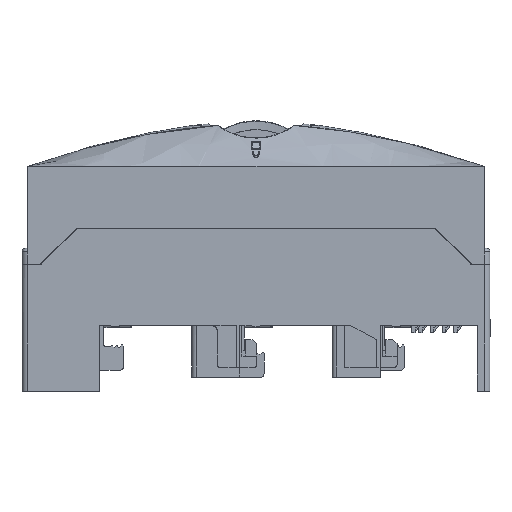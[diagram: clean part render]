
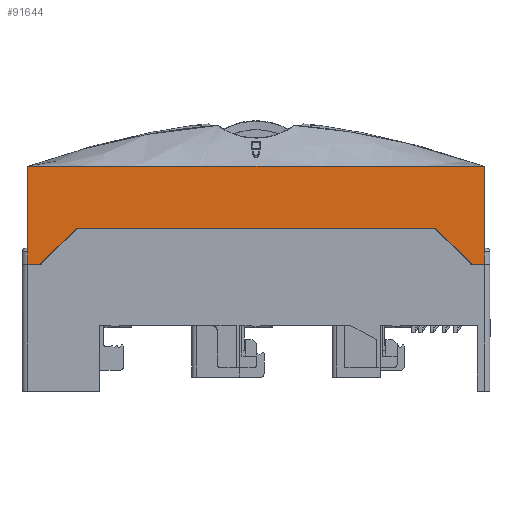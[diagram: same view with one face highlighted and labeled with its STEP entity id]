
A CAD part, front view. The second image highlights one B-rep face of the part: STEP entity #91644.
In plain terms, the highlighted planar face has unit normal (0, -1, 0).
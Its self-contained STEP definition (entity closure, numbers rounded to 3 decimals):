
#693 = CARTESIAN_POINT ( 'NONE',  ( 76.095, -27., 41.5 ) ) ;
#4060 = CARTESIAN_POINT ( 'NONE',  ( -92.715, -27., 27.2 ) ) ;
#5579 = DIRECTION ( 'NONE',  ( 0., 0., 1. ) ) ;
#5684 = VECTOR ( 'NONE', #11743, 1000. ) ;
#7222 = VECTOR ( 'NONE', #44514, 1000. ) ;
#7511 = ORIENTED_EDGE ( 'NONE', *, *, #54850, .T. ) ;
#11357 = ORIENTED_EDGE ( 'NONE', *, *, #110919, .T. ) ;
#11470 = VERTEX_POINT ( 'NONE', #56125 ) ;
#11743 = DIRECTION ( 'NONE',  ( 0., 0., -1. ) ) ;
#12035 = VECTOR ( 'NONE', #52580, 1000. ) ;
#12190 = VERTEX_POINT ( 'NONE', #67731 ) ;
#12319 = CARTESIAN_POINT ( 'NONE',  ( 97.5, -27., 68. ) ) ;
#12774 = CARTESIAN_POINT ( 'NONE',  ( 76.095, -27., 40.5 ) ) ;
#17081 = VERTEX_POINT ( 'NONE', #99433 ) ;
#18477 = LINE ( 'NONE', #66937, #52166 ) ;
#21380 = CARTESIAN_POINT ( 'NONE',  ( 97.5, -27., 33. ) ) ;
#21802 = DIRECTION ( 'NONE',  ( 0., 1., 0. ) ) ;
#22606 = DIRECTION ( 'NONE',  ( 0., 1., 0. ) ) ;
#23917 = AXIS2_PLACEMENT_3D ( 'NONE', #4060, #41801, #95265 ) ;
#24063 = LINE ( 'NONE', #48807, #48006 ) ;
#24779 = EDGE_CURVE ( 'NONE', #60369, #64512, #74467, .T. ) ;
#25343 = AXIS2_PLACEMENT_3D ( 'NONE', #88892, #26366, #51171 ) ;
#25595 = EDGE_CURVE ( 'NONE', #17081, #70193, #110822, .T. ) ;
#26205 = CARTESIAN_POINT ( 'NONE',  ( -97.5, -27., 33. ) ) ;
#26366 = DIRECTION ( 'NONE',  ( 0., -1., 0. ) ) ;
#26980 = PLANE ( 'NONE',  #100226 ) ;
#27064 = ORIENTED_EDGE ( 'NONE', *, *, #81143, .T. ) ;
#29299 = DIRECTION ( 'NONE',  ( 0., 0., 1. ) ) ;
#31174 = LINE ( 'NONE', #21380, #67723 ) ;
#31473 = VECTOR ( 'NONE', #110914, 1000. ) ;
#35067 = VECTOR ( 'NONE', #99252, 1000. ) ;
#37272 = FACE_OUTER_BOUND ( 'NONE', #49520, .T. ) ;
#38188 = CARTESIAN_POINT ( 'NONE',  ( -97.5, -27., 26.2 ) ) ;
#40316 = CARTESIAN_POINT ( 'NONE',  ( -76.095, -27., 40.5 ) ) ;
#40350 = VECTOR ( 'NONE', #112062, 1000. ) ;
#41801 = DIRECTION ( 'NONE',  ( 0., -1., 0. ) ) ;
#43855 = EDGE_CURVE ( 'NONE', #108581, #49772, #60365, .T. ) ;
#44514 = DIRECTION ( 'NONE',  ( 1., 0., 0. ) ) ;
#44689 = DIRECTION ( 'NONE',  ( 0., -1., 0. ) ) ;
#46943 = EDGE_CURVE ( 'NONE', #77581, #108581, #69474, .T. ) ;
#48006 = VECTOR ( 'NONE', #57854, 1000. ) ;
#48054 = CARTESIAN_POINT ( 'NONE',  ( 76.791, -27., 41.219 ) ) ;
#48807 = CARTESIAN_POINT ( 'NONE',  ( -92.019, -27., 26.481 ) ) ;
#48920 = EDGE_CURVE ( 'NONE', #64512, #91003, #106806, .T. ) ;
#49255 = AXIS2_PLACEMENT_3D ( 'NONE', #12774, #21802, #56869 ) ;
#49520 = EDGE_LOOP ( 'NONE', ( #105619, #116394, #78817, #101281, #7511, #91005, #89202, #107187, #114385, #86968, #98382, #27064, #11357, #85288 ) ) ;
#49772 = VERTEX_POINT ( 'NONE', #58120 ) ;
#50026 = CARTESIAN_POINT ( 'NONE',  ( 92.715, -27., 26.2 ) ) ;
#51171 = DIRECTION ( 'NONE',  ( 0., 0., 1. ) ) ;
#52166 = VECTOR ( 'NONE', #5579, 1000. ) ;
#52571 = CARTESIAN_POINT ( 'NONE',  ( -97.5, -27., 33. ) ) ;
#52580 = DIRECTION ( 'NONE',  ( -1., 0., 0. ) ) ;
#52734 = CARTESIAN_POINT ( 'NONE',  ( -97.5, -27., 31.5 ) ) ;
#53180 = EDGE_CURVE ( 'NONE', #49772, #17081, #24063, .T. ) ;
#54850 = EDGE_CURVE ( 'NONE', #70193, #103940, #102916, .T. ) ;
#55218 = CARTESIAN_POINT ( 'NONE',  ( -97.5, -27., 26.2 ) ) ;
#56125 = CARTESIAN_POINT ( 'NONE',  ( -97.5, -27., 68. ) ) ;
#56565 = VECTOR ( 'NONE', #116537, 1000. ) ;
#56869 = DIRECTION ( 'NONE',  ( 0., 0., 1. ) ) ;
#57854 = DIRECTION ( 'NONE',  ( 0.719, 0., 0.695 ) ) ;
#58120 = CARTESIAN_POINT ( 'NONE',  ( -92.019, -27., 26.481 ) ) ;
#59384 = CARTESIAN_POINT ( 'NONE',  ( 92.019, -27., 26.481 ) ) ;
#60365 = CIRCLE ( 'NONE', #23917, 1. ) ;
#60369 = VERTEX_POINT ( 'NONE', #59384 ) ;
#63667 = LINE ( 'NONE', #52571, #56565 ) ;
#63811 = CARTESIAN_POINT ( 'NONE',  ( -92.715, -27., 26.2 ) ) ;
#63841 = EDGE_CURVE ( 'NONE', #103940, #92646, #112701, .T. ) ;
#64260 = LINE ( 'NONE', #67658, #40350 ) ;
#64512 = VERTEX_POINT ( 'NONE', #50026 ) ;
#66059 = CARTESIAN_POINT ( 'NONE',  ( -97.5, -27., 33. ) ) ;
#66937 = CARTESIAN_POINT ( 'NONE',  ( 97.5, -27., 33. ) ) ;
#67658 = CARTESIAN_POINT ( 'NONE',  ( 76.791, -27., 41.219 ) ) ;
#67723 = VECTOR ( 'NONE', #29299, 1000. ) ;
#67731 = CARTESIAN_POINT ( 'NONE',  ( 97.5, -27., 31.5 ) ) ;
#69474 = LINE ( 'NONE', #38188, #31473 ) ;
#70193 = VERTEX_POINT ( 'NONE', #103845 ) ;
#70651 = DIRECTION ( 'NONE',  ( 0., 0., -1. ) ) ;
#71880 = LINE ( 'NONE', #66059, #5684 ) ;
#74467 = CIRCLE ( 'NONE', #25343, 1. ) ;
#77581 = VERTEX_POINT ( 'NONE', #114216 ) ;
#78817 = ORIENTED_EDGE ( 'NONE', *, *, #53180, .T. ) ;
#80940 = LINE ( 'NONE', #106405, #12035 ) ;
#81143 = EDGE_CURVE ( 'NONE', #104475, #11470, #80940, .T. ) ;
#84638 = EDGE_CURVE ( 'NONE', #90964, #77581, #63667, .T. ) ;
#84989 = EDGE_CURVE ( 'NONE', #12190, #104475, #31174, .T. ) ;
#85288 = ORIENTED_EDGE ( 'NONE', *, *, #84638, .T. ) ;
#86123 = CARTESIAN_POINT ( 'NONE',  ( 97.5, -27., 26.2 ) ) ;
#86968 = ORIENTED_EDGE ( 'NONE', *, *, #110451, .T. ) ;
#88892 = CARTESIAN_POINT ( 'NONE',  ( 92.715, -27., 27.2 ) ) ;
#89202 = ORIENTED_EDGE ( 'NONE', *, *, #90937, .T. ) ;
#90937 = EDGE_CURVE ( 'NONE', #92646, #60369, #64260, .T. ) ;
#90964 = VERTEX_POINT ( 'NONE', #52734 ) ;
#91003 = VERTEX_POINT ( 'NONE', #86123 ) ;
#91005 = ORIENTED_EDGE ( 'NONE', *, *, #63841, .T. ) ;
#91644 = ADVANCED_FACE ( 'NONE', ( #37272 ), #26980, .T. ) ;
#92646 = VERTEX_POINT ( 'NONE', #48054 ) ;
#95265 = DIRECTION ( 'NONE',  ( 0., 0., -1. ) ) ;
#98382 = ORIENTED_EDGE ( 'NONE', *, *, #84989, .T. ) ;
#99252 = DIRECTION ( 'NONE',  ( 1., 0., 0. ) ) ;
#99433 = CARTESIAN_POINT ( 'NONE',  ( -76.791, -27., 41.219 ) ) ;
#100226 = AXIS2_PLACEMENT_3D ( 'NONE', #26205, #44689, #70651 ) ;
#101281 = ORIENTED_EDGE ( 'NONE', *, *, #25595, .T. ) ;
#101705 = DIRECTION ( 'NONE',  ( 0., 0., -1. ) ) ;
#102916 = LINE ( 'NONE', #108138, #7222 ) ;
#103030 = AXIS2_PLACEMENT_3D ( 'NONE', #40316, #22606, #101705 ) ;
#103845 = CARTESIAN_POINT ( 'NONE',  ( -76.095, -27., 41.5 ) ) ;
#103940 = VERTEX_POINT ( 'NONE', #693 ) ;
#104475 = VERTEX_POINT ( 'NONE', #12319 ) ;
#105619 = ORIENTED_EDGE ( 'NONE', *, *, #46943, .T. ) ;
#106405 = CARTESIAN_POINT ( 'NONE',  ( -97.5, -27., 68. ) ) ;
#106806 = LINE ( 'NONE', #55218, #35067 ) ;
#107187 = ORIENTED_EDGE ( 'NONE', *, *, #24779, .T. ) ;
#108138 = CARTESIAN_POINT ( 'NONE',  ( -97.5, -27., 41.5 ) ) ;
#108581 = VERTEX_POINT ( 'NONE', #63811 ) ;
#110451 = EDGE_CURVE ( 'NONE', #91003, #12190, #18477, .T. ) ;
#110822 = CIRCLE ( 'NONE', #103030, 1. ) ;
#110914 = DIRECTION ( 'NONE',  ( 1., 0., 0. ) ) ;
#110919 = EDGE_CURVE ( 'NONE', #11470, #90964, #71880, .T. ) ;
#112062 = DIRECTION ( 'NONE',  ( 0.719, 0., -0.695 ) ) ;
#112701 = CIRCLE ( 'NONE', #49255, 1. ) ;
#114216 = CARTESIAN_POINT ( 'NONE',  ( -97.5, -27., 26.2 ) ) ;
#114385 = ORIENTED_EDGE ( 'NONE', *, *, #48920, .T. ) ;
#116394 = ORIENTED_EDGE ( 'NONE', *, *, #43855, .T. ) ;
#116537 = DIRECTION ( 'NONE',  ( 0., 0., -1. ) ) ;
